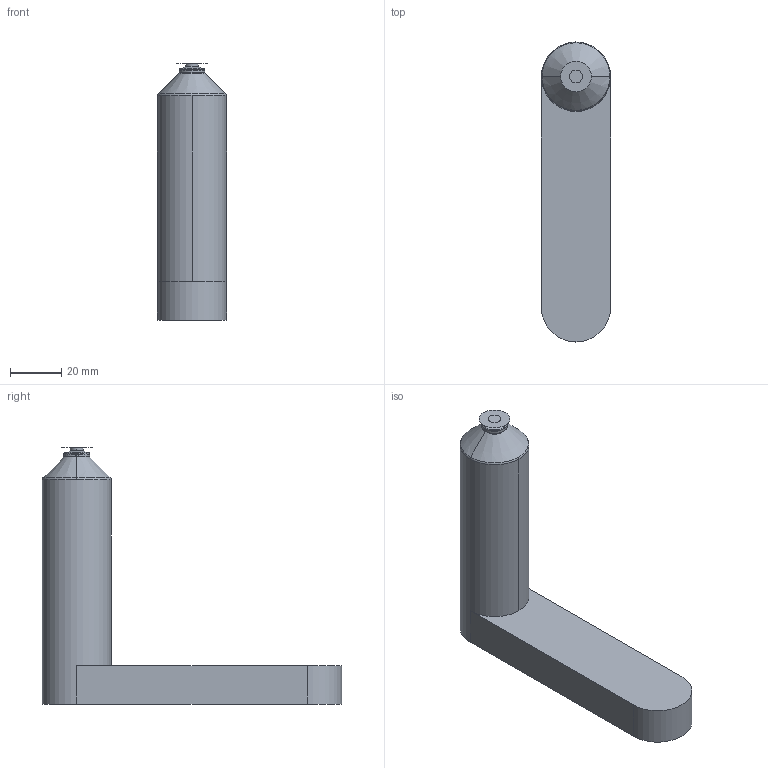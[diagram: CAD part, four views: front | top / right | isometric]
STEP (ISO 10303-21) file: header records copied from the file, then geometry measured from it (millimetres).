
FILE_DESCRIPTION (( 'STEP AP214' ), '1' );
FILE_NAME ('09E-03-100-VSM.STEP', '2023-01-03T12:34:30', ( '' ), ( '' ), 'SwSTEP 2.0', 'SolidWorks 2018', '' );
FILE_SCHEMA (( 'AUTOMOTIVE_DESIGN' ));
Length unit declared in the file: millimetre
Products named in the file (3): cutout_09E-03-100-VSM; nozzle_09E-03-100-VSM; 09E-03-100-VSM
Assembly tree (2 placements, depth 2):
  09E-03-100-VSM
    nozzle_09E-03-100-VSM
    cutout_09E-03-100-VSM
Bounding box: 27 x 117 x 100 mm (x, y, z)
Volume: 89459.7 mm3; surface area: 41392.3 mm2
Topology: 1 solids, 4 shells, 250 faces, 665 edges, 420 vertices
Faces by surface type: cylinder 114, plane 71, cone 41, torus 20, bspline 4
Entity records: 11903 total; most frequent: CARTESIAN_POINT 5486, DIRECTION 1350, ORIENTED_EDGE 1328, EDGE_CURVE 665, AXIS2_PLACEMENT_3D 533, VERTEX_POINT 420, VECTOR 284, LINE 284
